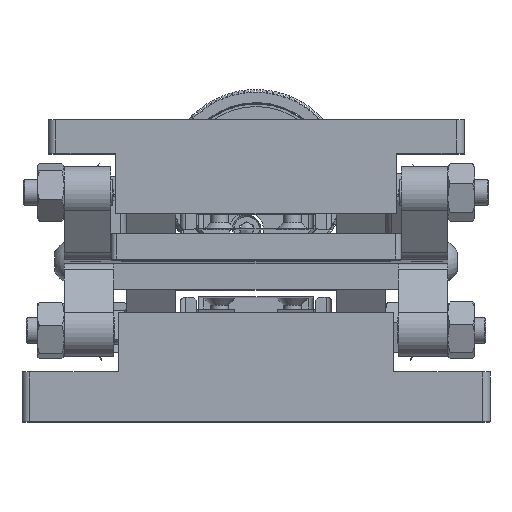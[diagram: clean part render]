
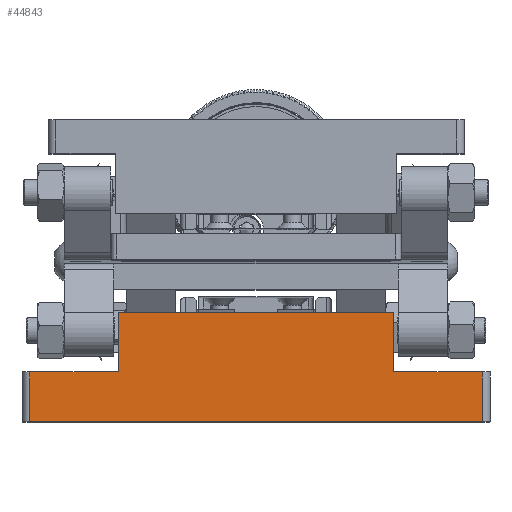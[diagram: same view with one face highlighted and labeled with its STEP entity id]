
A CAD part, top view. The second image highlights one B-rep face of the part: STEP entity #44843.
In plain terms, the highlighted planar face has unit normal (0, 0, 1).
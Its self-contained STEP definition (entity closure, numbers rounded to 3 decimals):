
#19379 = AXIS2_PLACEMENT_3D ( 'NONE', #27324, #27332, #27333 ) ;
#21351 = LINE ( 'NONE', #24328, #21358 ) ;
#21358 = VECTOR ( 'NONE', #24319, 1000. ) ;
#21372 = LINE ( 'NONE', #24353, #21375 ) ;
#21375 = VECTOR ( 'NONE', #24354, 1000. ) ;
#21418 = LINE ( 'NONE', #24421, #21423 ) ;
#21423 = VECTOR ( 'NONE', #24422, 1000. ) ;
#21455 = LINE ( 'NONE', #24506, #21458 ) ;
#21458 = VECTOR ( 'NONE', #24507, 1000. ) ;
#21463 = LINE ( 'NONE', #24517, #21466 ) ;
#21466 = VECTOR ( 'NONE', #24518, 1000. ) ;
#21494 = LINE ( 'NONE', #24583, #21496 ) ;
#21496 = VECTOR ( 'NONE', #24584, 1000. ) ;
#21497 = LINE ( 'NONE', #24592, #21499 ) ;
#21498 = LINE ( 'NONE', #24600, #21501 ) ;
#21499 = VECTOR ( 'NONE', #24593, 1000. ) ;
#21501 = VECTOR ( 'NONE', #24601, 1000. ) ;
#24319 = DIRECTION ( 'NONE',  ( -1., 0., 0. ) ) ;
#24328 = CARTESIAN_POINT ( 'NONE',  ( -46.378, 10.028, 65.63 ) ) ;
#24353 = CARTESIAN_POINT ( 'NONE',  ( -19.878, 10.028, 65.63 ) ) ;
#24354 = DIRECTION ( 'NONE',  ( 0., -1., 0. ) ) ;
#24421 = CARTESIAN_POINT ( 'NONE',  ( -46.378, -1.472, 65.63 ) ) ;
#24422 = DIRECTION ( 'NONE',  ( -1., 0., 0. ) ) ;
#24506 = CARTESIAN_POINT ( 'NONE',  ( -89.878, 10.028, 65.63 ) ) ;
#24507 = DIRECTION ( 'NONE',  ( 0., -1., 0. ) ) ;
#24517 = CARTESIAN_POINT ( 'NONE',  ( -72.878, 10.028, 65.63 ) ) ;
#24518 = DIRECTION ( 'NONE',  ( 0., -1., 0. ) ) ;
#24583 = CARTESIAN_POINT ( 'NONE',  ( -2.878, 10.028, 65.63 ) ) ;
#24584 = DIRECTION ( 'NONE',  ( 0., 1., 0. ) ) ;
#24592 = CARTESIAN_POINT ( 'NONE',  ( -46.378, -10.972, 65.63 ) ) ;
#24593 = DIRECTION ( 'NONE',  ( -1., 0., 0. ) ) ;
#24600 = CARTESIAN_POINT ( 'NONE',  ( -46.378, -1.472, 65.63 ) ) ;
#24601 = DIRECTION ( 'NONE',  ( -1., 0., 0. ) ) ;
#26026 = FACE_OUTER_BOUND ( 'NONE', #44529, .T. ) ;
#27324 = CARTESIAN_POINT ( 'NONE',  ( -46.378, 10.028, 65.63 ) ) ;
#27329 = PLANE ( 'NONE',  #19379 ) ;
#27332 = DIRECTION ( 'NONE',  ( 0., 0., 1. ) ) ;
#27333 = DIRECTION ( 'NONE',  ( 1., 0., 0. ) ) ;
#27783 = CARTESIAN_POINT ( 'NONE',  ( -72.878, 10.028, 65.63 ) ) ;
#27786 = CARTESIAN_POINT ( 'NONE',  ( -19.878, -1.472, 65.63 ) ) ;
#27787 = CARTESIAN_POINT ( 'NONE',  ( -19.878, 10.028, 65.63 ) ) ;
#27791 = CARTESIAN_POINT ( 'NONE',  ( -72.878, -1.472, 65.63 ) ) ;
#27793 = CARTESIAN_POINT ( 'NONE',  ( -89.878, -1.472, 65.63 ) ) ;
#27798 = CARTESIAN_POINT ( 'NONE',  ( -89.878, -10.972, 65.63 ) ) ;
#27801 = CARTESIAN_POINT ( 'NONE',  ( -2.878, -1.472, 65.63 ) ) ;
#27811 = CARTESIAN_POINT ( 'NONE',  ( -2.878, -10.972, 65.63 ) ) ;
#42791 = EDGE_CURVE ( 'NONE', #45063, #45059, #21351, .T. ) ;
#42801 = EDGE_CURVE ( 'NONE', #45063, #45062, #21372, .T. ) ;
#42830 = EDGE_CURVE ( 'NONE', #45067, #45069, #21418, .T. ) ;
#42860 = EDGE_CURVE ( 'NONE', #45069, #45074, #21455, .T. ) ;
#42865 = EDGE_CURVE ( 'NONE', #45059, #45067, #21463, .T. ) ;
#42883 = EDGE_CURVE ( 'NONE', #45087, #45077, #21494, .T. ) ;
#42885 = EDGE_CURVE ( 'NONE', #45087, #45074, #21497, .T. ) ;
#42886 = EDGE_CURVE ( 'NONE', #45077, #45062, #21498, .T. ) ;
#44529 = EDGE_LOOP ( 'NONE', ( #46119, #46120, #46121, #46122, #46123, #46124, #46125, #46126 ) ) ;
#44843 = ADVANCED_FACE ( 'NONE', ( #26026 ), #27329, .T. ) ;
#45059 = VERTEX_POINT ( 'NONE', #27783 ) ;
#45062 = VERTEX_POINT ( 'NONE', #27786 ) ;
#45063 = VERTEX_POINT ( 'NONE', #27787 ) ;
#45067 = VERTEX_POINT ( 'NONE', #27791 ) ;
#45069 = VERTEX_POINT ( 'NONE', #27793 ) ;
#45074 = VERTEX_POINT ( 'NONE', #27798 ) ;
#45077 = VERTEX_POINT ( 'NONE', #27801 ) ;
#45087 = VERTEX_POINT ( 'NONE', #27811 ) ;
#46119 = ORIENTED_EDGE ( 'NONE', *, *, #42885, .F. ) ;
#46120 = ORIENTED_EDGE ( 'NONE', *, *, #42883, .T. ) ;
#46121 = ORIENTED_EDGE ( 'NONE', *, *, #42886, .T. ) ;
#46122 = ORIENTED_EDGE ( 'NONE', *, *, #42801, .F. ) ;
#46123 = ORIENTED_EDGE ( 'NONE', *, *, #42791, .T. ) ;
#46124 = ORIENTED_EDGE ( 'NONE', *, *, #42865, .T. ) ;
#46125 = ORIENTED_EDGE ( 'NONE', *, *, #42830, .T. ) ;
#46126 = ORIENTED_EDGE ( 'NONE', *, *, #42860, .T. ) ;
